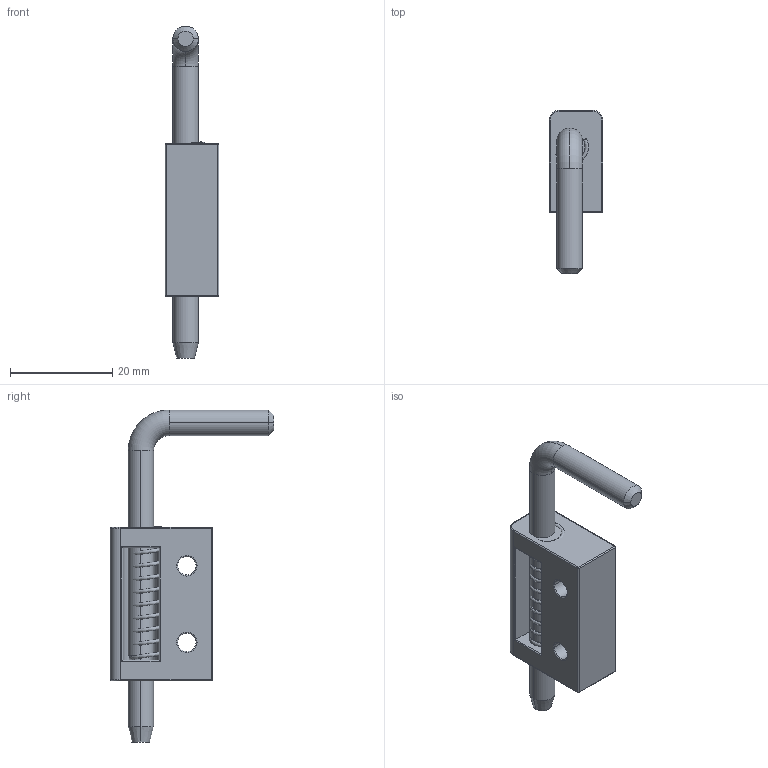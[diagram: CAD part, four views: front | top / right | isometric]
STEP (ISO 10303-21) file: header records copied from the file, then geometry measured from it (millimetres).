
FILE_DESCRIPTION (( 'STEP AP214' ), '1' );
FILE_NAME ('3.ST94.002.STEP', '2014-03-18T11:14:50', ( 'lukasz' ), ( 'ATC' ), 'SwSTEP 2.0', 'SolidWorks 2014', '' );
FILE_SCHEMA (( 'AUTOMOTIVE_DESIGN' ));
Length unit declared in the file: millimetre
Products named in the file (4): 3.ST94.002; 3.ST94.001.03; 3.ST94.001.02; 3.ST94.001.01
Assembly tree (3 placements, depth 2):
  3.ST94.002
    3.ST94.001.01
    3.ST94.001.02
    3.ST94.001.03
Bounding box: 10.5 x 32 x 65 mm (x, y, z)
Volume: 6575.5 mm3; surface area: 4707.9 mm2
Topology: 3 solids, 3 shells, 84 faces, 187 edges, 108 vertices
Faces by surface type: cylinder 36, plane 16, torus 14, bspline 10, sphere 4, cone 4
Entity records: 5387 total; most frequent: CARTESIAN_POINT 3373, DIRECTION 437, ORIENTED_EDGE 366, AXIS2_PLACEMENT_3D 188, EDGE_CURVE 183, VERTEX_POINT 108, CIRCLE 108, EDGE_LOOP 95
